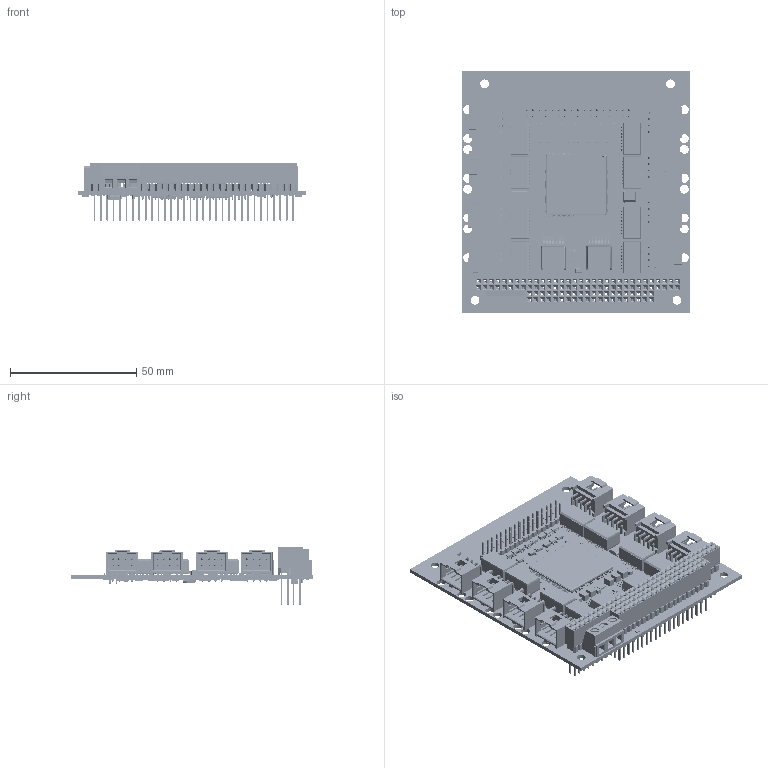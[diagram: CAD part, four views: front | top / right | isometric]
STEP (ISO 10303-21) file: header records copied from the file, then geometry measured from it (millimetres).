
FILE_DESCRIPTION (( 'STEP AP214' ), '1' );
FILE_NAME ('ESW-104-07.STEP', '2024-09-10T11:59:49', ( '' ), ( '' ), 'SwSTEP 2.0', 'SolidWorks 2022', '' );
FILE_SCHEMA (( 'AUTOMOTIVE_DESIGN' ));
Length unit declared in the file: millimetre
Products named in the file (1): ESW-104-07
Bounding box: 90.17 x 95.89 x 23.24 mm (x, y, z)
Surface area: 45013.4 mm2 (no closed solid volume)
Topology: 0 solids, 1979 shells, 10108 faces, 37536 edges, 29059 vertices
Faces by surface type: plane 9168, cylinder 914, sphere 13, bspline 8, torus 5
Full cylindrical faces by diameter (mm): 0.119 x2, 0.141 x2, 0.4 x18, 1 x15, 1.09 x85, 1.57 x1, 1.62 x1, 1.65 x2, 1.8 x3, 3.5 x20, 3.6 x3
Entity records: 499184 total; most frequent: CARTESIAN_POINT 79851, DIRECTION 61173, ORIENTED_EDGE 52120, EDGE_CURVE 37373, VECTOR 31971, LINE 31971, VERTEX_POINT 29057, AXIS2_PLACEMENT_3D 14601
